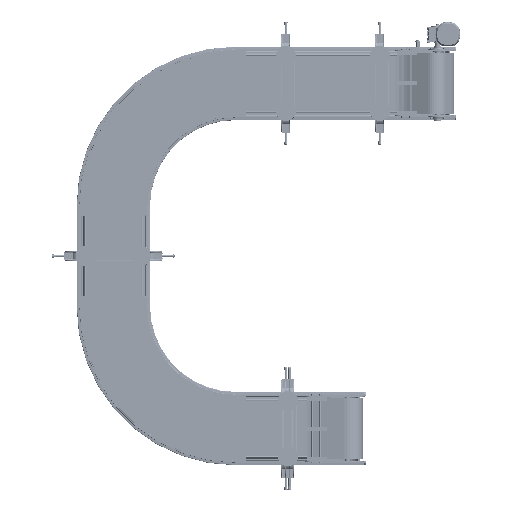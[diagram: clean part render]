
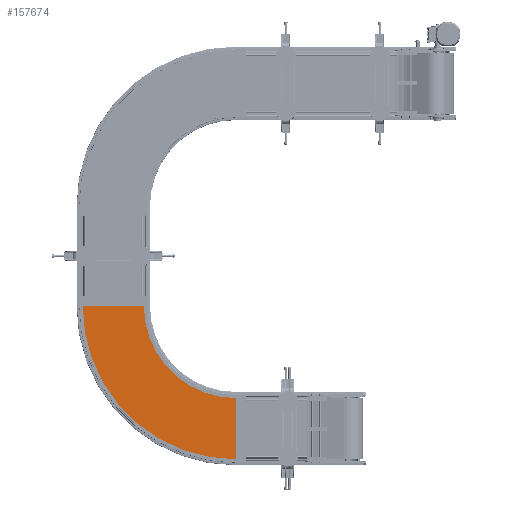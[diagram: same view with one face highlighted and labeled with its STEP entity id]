
A CAD part, front view. The second image highlights one B-rep face of the part: STEP entity #157674.
In plain terms, the highlighted planar face has unit normal (0, -1, 0).
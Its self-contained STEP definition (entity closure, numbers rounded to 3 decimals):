
#35678 = DIRECTION ( 'NONE',  ( -1., 0., 0. ) ) ;
#46141 = CIRCLE ( 'NONE', #254574, 762.4 ) ;
#68676 = CARTESIAN_POINT ( 'NONE',  ( -1110., -120.83, 793. ) ) ;
#69128 = EDGE_CURVE ( 'NONE', #128447, #113444, #46141, .T. ) ;
#74304 = CARTESIAN_POINT ( 'NONE',  ( -1872.4, -120.83, 793. ) ) ;
#78941 = FACE_OUTER_BOUND ( 'NONE', #125800, .T. ) ;
#87213 = AXIS2_PLACEMENT_3D ( 'NONE', #260151, #160209, #241515 ) ;
#90345 = LINE ( 'NONE', #74304, #210293 ) ;
#96082 = CARTESIAN_POINT ( 'NONE',  ( -1110., -120.83, 1250.6 ) ) ;
#113444 = VERTEX_POINT ( 'NONE', #140969 ) ;
#114762 = VERTEX_POINT ( 'NONE', #242603 ) ;
#118899 = ORIENTED_EDGE ( 'NONE', *, *, #248092, .T. ) ;
#124720 = DIRECTION ( 'NONE',  ( 0., -1., 0. ) ) ;
#125800 = EDGE_LOOP ( 'NONE', ( #149530, #181639, #163161, #118899 ) ) ;
#128447 = VERTEX_POINT ( 'NONE', #193863 ) ;
#134199 = VERTEX_POINT ( 'NONE', #96082 ) ;
#138663 = AXIS2_PLACEMENT_3D ( 'NONE', #160994, #162320, #243609 ) ;
#139649 = LINE ( 'NONE', #240917, #215329 ) ;
#140969 = CARTESIAN_POINT ( 'NONE',  ( -1872.4, -120.83, 793. ) ) ;
#147331 = DIRECTION ( 'NONE',  ( 0., 0., 1. ) ) ;
#149530 = ORIENTED_EDGE ( 'NONE', *, *, #69128, .T. ) ;
#157674 = ADVANCED_FACE ( 'NONE', ( #78941 ), #224125, .T. ) ;
#160209 = DIRECTION ( 'NONE',  ( 0., -1., 0. ) ) ;
#160994 = CARTESIAN_POINT ( 'NONE',  ( -1110., -120.83, 793. ) ) ;
#162320 = DIRECTION ( 'NONE',  ( 0., -1., 0. ) ) ;
#163161 = ORIENTED_EDGE ( 'NONE', *, *, #178776, .F. ) ;
#178776 = EDGE_CURVE ( 'NONE', #134199, #114762, #240605, .T. ) ;
#181639 = ORIENTED_EDGE ( 'NONE', *, *, #232951, .F. ) ;
#193863 = CARTESIAN_POINT ( 'NONE',  ( -1110., -120.83, 1555.4 ) ) ;
#210293 = VECTOR ( 'NONE', #35678, 1000. ) ;
#215329 = VECTOR ( 'NONE', #246130, 1000. ) ;
#224125 = PLANE ( 'NONE',  #87213 ) ;
#232951 = EDGE_CURVE ( 'NONE', #114762, #113444, #90345, .T. ) ;
#240605 = CIRCLE ( 'NONE', #138663, 457.6 ) ;
#240917 = CARTESIAN_POINT ( 'NONE',  ( -1110., -120.83, 1555.4 ) ) ;
#241515 = DIRECTION ( 'NONE',  ( 0., 0., -1. ) ) ;
#242603 = CARTESIAN_POINT ( 'NONE',  ( -1567.6, -120.83, 793. ) ) ;
#243609 = DIRECTION ( 'NONE',  ( 0., 0., 1. ) ) ;
#246130 = DIRECTION ( 'NONE',  ( 0., 0., 1. ) ) ;
#248092 = EDGE_CURVE ( 'NONE', #134199, #128447, #139649, .T. ) ;
#254574 = AXIS2_PLACEMENT_3D ( 'NONE', #68676, #124720, #147331 ) ;
#260151 = CARTESIAN_POINT ( 'NONE',  ( -1110., -120.83, 1555.4 ) ) ;
